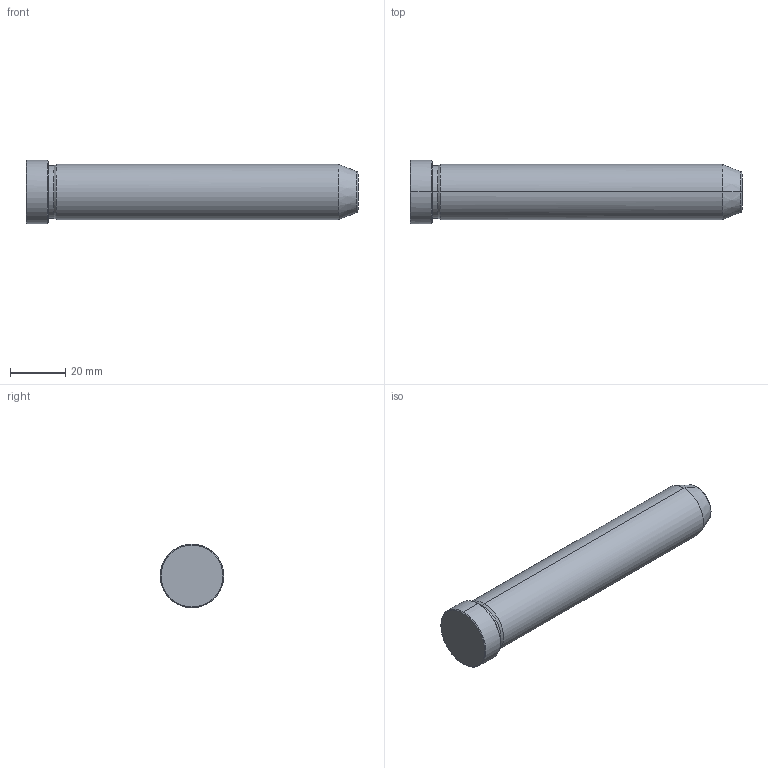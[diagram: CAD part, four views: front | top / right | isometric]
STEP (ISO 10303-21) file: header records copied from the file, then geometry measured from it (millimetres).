
FILE_DESCRIPTION(('CATIA V5 STEP Exchange'),'2;1');
FILE_NAME('C:\Users\Utente\Desktop\IO LAVORO\3D X SITO CF\X SITO\PLASTICA\549\549-20X120.stp','2021-12-11T09:53:31+00:00',('none'),('none'),'CATIA Version 5 Release 20 GA (IN-10)','CATIA V5 STEP AP203','none');
FILE_SCHEMA(('CONFIG_CONTROL_DESIGN'));
Length unit declared in the file: millimetre
Products named in the file (1): 549-20X120
Bounding box: 120 x 23 x 23 mm (x, y, z)
Volume: 37861.6 mm3; surface area: 8259.1 mm2
Topology: 1 solids, 1 shells, 19 faces, 56 edges, 40 vertices
Faces by surface type: cone 8, cylinder 6, plane 3, torus 2
Entity records: 736 total; most frequent: CARTESIAN_POINT 192, ORIENTED_EDGE 112, DIRECTION 86, EDGE_CURVE 56, AXIS2_PLACEMENT_3D 54, VERTEX_POINT 40, CIRCLE 34, EDGE_LOOP 20
